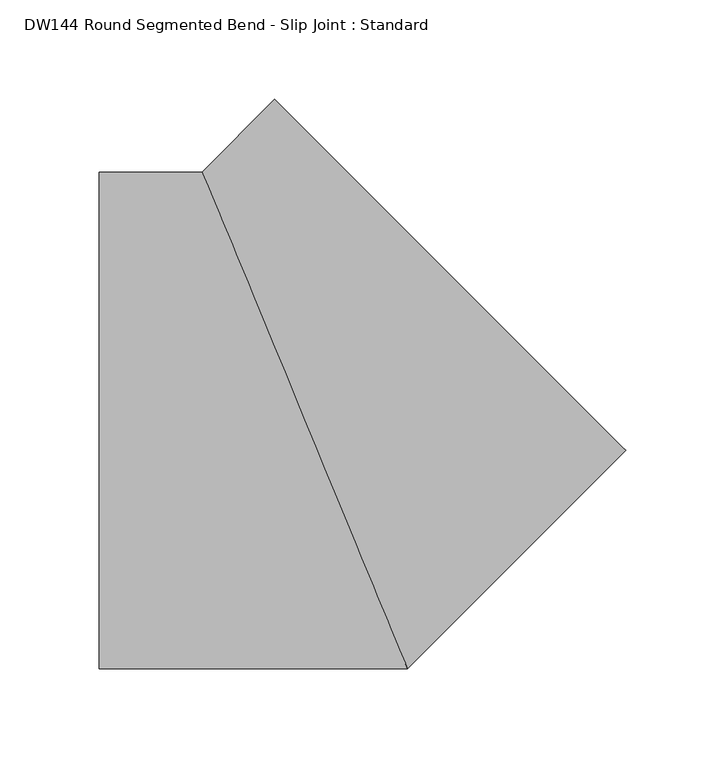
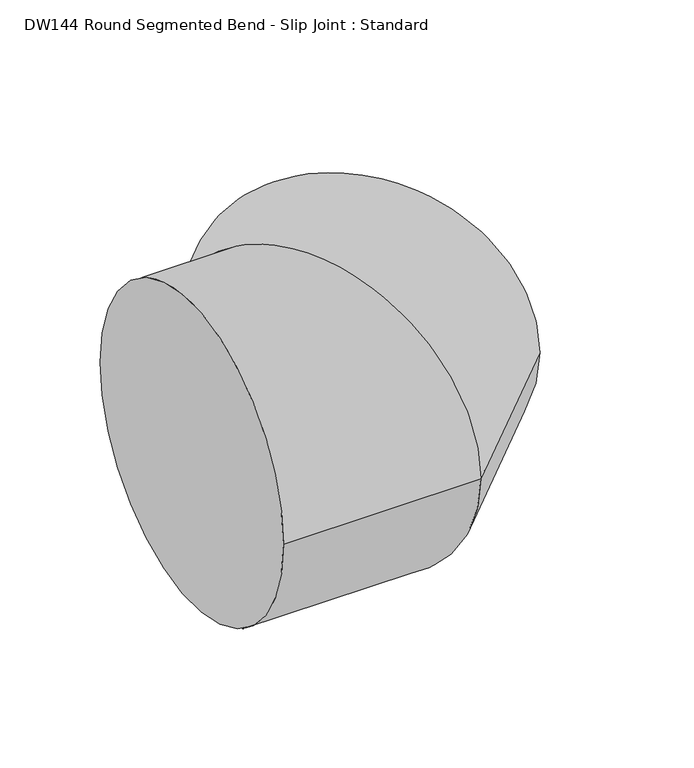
"""IFC4 building model written with IfcOpenShell, lengths in millimetres: duct fitting geometry, DW144 Round Segmented Bend - Slip Joint : Standard."""

import ifcopenshell
import ifcopenshell.guid

model = None  # the IFC model being written
_history = None  # IfcOwnerHistory: only IFC2X3 demands one
_inside = {}  # id of a spatial element -> (the spatial element, [elements in it])
_under = {}  # id of a project, library or spatial element -> (it, [spatial elements below it])
_declared = {}  # id of a project -> (the project, [libraries it declares])
_typed = {}  # id of a type object -> (the type object, [elements of that type])
_made_of = {}  # id of a material, layer set ... -> (it, [elements and type objects made of it])


def new_model(schema):
    """Start an empty IFC model of exactly this schema.

    Asked for "IFC4X3", IfcOpenShell would pick the latest addendum, in which some entities
    have other attributes; the version numbers below select the first issue.
    IFC2X3 requires an IfcOwnerHistory on every rooted entity: one is made here for all.
    """
    global model, _history
    if schema == "IFC4X3":
        model = ifcopenshell.file(schema_version=(4, 3, 0, 0))
    else:
        model = ifcopenshell.file(schema=schema)
    _inside.clear()
    _under.clear()
    _declared.clear()
    _typed.clear()
    _made_of.clear()
    _history = None
    if model.schema == "IFC2X3":
        org = make("IfcOrganization", Name="unknown")
        user = make(
            "IfcPersonAndOrganization",
            ThePerson=make("IfcPerson", FamilyName="unknown"),
            TheOrganization=org,
        )
        app = make(
            "IfcApplication",
            ApplicationDeveloper=org,
            Version="unknown",
            ApplicationFullName="unknown",
            ApplicationIdentifier="unknown",
        )
        _history = make(
            "IfcOwnerHistory",
            OwningUser=user,
            OwningApplication=app,
            ChangeAction="ADDED",
            CreationDate=0,
        )
    return model


def make(cls, **values):
    """One entity of the class cls with the attributes given. An attribute that is None is left unset."""
    return model.create_entity(
        cls, **{name: value for name, value in values.items() if value is not None}
    )


def rooted(cls, **values):
    """An entity with a GlobalId (a new one), such as an element, a storey or a relation."""
    return make(cls, GlobalId=ifcopenshell.guid.new(), OwnerHistory=_history, **values)


def si_unit(unit_type, name, prefix=None):
    """IfcSIUnit, for example si_unit("LENGTHUNIT", "METRE", prefix="MILLI")."""
    return make("IfcSIUnit", UnitType=unit_type, Prefix=prefix, Name=name)


def assignment(units):
    """IfcUnitAssignment: the units of a project."""
    return None if units is None else make("IfcUnitAssignment", Units=units)


def point(xyz):
    """IfcCartesianPoint."""
    return None if xyz is None else make("IfcCartesianPoint", Coordinates=xyz)


def direction(xyz):
    """IfcDirection."""
    return None if xyz is None else make("IfcDirection", DirectionRatios=xyz)


def frame(location, z_axis=None, x_axis=None):
    """IfcAxis2Placement3D, a coordinate frame: its origin and axes. An axis left out is left unset."""
    return make(
        "IfcAxis2Placement3D",
        Location=point(location),
        Axis=direction(z_axis),
        RefDirection=direction(x_axis),
    )


def origin():
    """The frame at (0, 0, 0) with its axes left unset."""
    return frame((0.0, 0.0, 0.0))


def place(relative_to, where):
    """IfcLocalPlacement: puts the frame where relative to a parent placement (None: the world)."""
    return make(
        "IfcLocalPlacement", PlacementRelTo=relative_to, RelativePlacement=where
    )


def context(
    kind, dimensions, precision=None, world=None, true_north=None, identifier=None
):
    """IfcGeometricRepresentationContext, for example the 3D "Model" context."""
    return make(
        "IfcGeometricRepresentationContext",
        ContextIdentifier=identifier,
        ContextType=kind,
        CoordinateSpaceDimension=dimensions,
        Precision=precision,
        WorldCoordinateSystem=world,
        TrueNorth=true_north,
    )


def project(units=None, contexts=None):
    """IfcProject with its units and contexts."""
    return rooted(
        "IfcProject",
        Name="project",
        RepresentationContexts=contexts,
        UnitsInContext=assignment(units),
    )


def spatial(cls, under=None, at=None, **own):
    """A site, building, storey or space (cls), placed at a placement, below another one or the project."""
    s = rooted(cls, ObjectPlacement=at, **own)
    if under is not None:
        _under.setdefault(under.id(), (under, []))[1].append(s)
    return s


def circle_curve(where, radius):
    """IfcCircle in the frame where."""
    return make("IfcCircle", Position=where, Radius=radius)


def ellipse_curve(where, semi_axis1, semi_axis2):
    """IfcEllipse in the frame where."""
    return make(
        "IfcEllipse", Position=where, SemiAxis1=semi_axis1, SemiAxis2=semi_axis2
    )


def shape(context_of_items, identifier, shape_type, items):
    """IfcShapeRepresentation: the items that make up one representation, for example the "Body"."""
    return make(
        "IfcShapeRepresentation",
        ContextOfItems=context_of_items,
        RepresentationIdentifier=identifier,
        RepresentationType=shape_type,
        Items=items,
    )


def source(mapping_origin, context_of_items, identifier, shape_type, items):
    """IfcRepresentationMap: a shape defined once, which mapped items show again and again."""
    return make(
        "IfcRepresentationMap",
        MappingOrigin=mapping_origin,
        MappedRepresentation=shape(context_of_items, identifier, shape_type, items),
    )


def transform(
    local_origin,
    x_axis=None,
    y_axis=None,
    z_axis=None,
    scale=None,
    scale2=None,
    scale3=None,
    uniform=True,
):
    """IfcCartesianTransformationOperator3D, or its non-uniform kind. x_axis, y_axis, z_axis: its Axis1, 2, 3."""
    if uniform:
        return make(
            "IfcCartesianTransformationOperator3D",
            Axis1=direction(x_axis),
            Axis2=direction(y_axis),
            LocalOrigin=point(local_origin),
            Scale=scale,
            Axis3=direction(z_axis),
        )
    return make(
        "IfcCartesianTransformationOperator3DnonUniform",
        Axis1=direction(x_axis),
        Axis2=direction(y_axis),
        LocalOrigin=point(local_origin),
        Scale=scale,
        Axis3=direction(z_axis),
        Scale2=scale2,
        Scale3=scale3,
    )


def mapped(mapping_source, mapping_target):
    """IfcMappedItem: shows the shape of a source again, moved by a transform."""
    return make(
        "IfcMappedItem", MappingSource=mapping_source, MappingTarget=mapping_target
    )


def made_of(thing, what):
    """Note that an element or type object is made of a material, layer set ...; save() writes the relation."""
    if what is not None:
        _made_of.setdefault(what.id(), (what, []))[1].append(thing)
    return thing


def element(
    cls,
    number,
    at=None,
    inside=None,
    cuts=None,
    type_object=None,
    material=None,
    context=None,
    identifier="Body",
    shape_type=None,
    held_by="IfcProductDefinitionShape",
    body=None,
    shapes=None,
    **own,
):
    """One element of the class cls, such as IfcWall. Its Tag is "e" and its number.

    at: its placement. inside: the storey or other place that contains it. cuts: it is an
    opening in that element (IfcRelVoidsElement). A single representation is given by context,
    identifier, shape_type and body (its items); several are given by shapes. held_by: the class
    of the entity that holds the representations. save() writes the other relations.
    """
    e = rooted(cls, Tag="e%d" % number, ObjectPlacement=at, **own)
    if body is not None:
        shapes = [shape(context, identifier, shape_type, body)]
    if shapes is not None:
        e.Representation = make(held_by, Representations=shapes)
    if inside is not None:
        _inside.setdefault(inside.id(), (inside, []))[1].append(e)
    if cuts is not None:
        rooted(
            "IfcRelVoidsElement", RelatingBuildingElement=cuts, RelatedOpeningElement=e
        )
    if type_object is not None:
        _typed.setdefault(type_object.id(), (type_object, []))[1].append(e)
    return made_of(e, material)


def aggregate(whole, parts):
    """IfcRelAggregates: a whole, such as a stair, and the parts it consists of."""
    return rooted("IfcRelAggregates", RelatingObject=whole, RelatedObjects=parts)


def save(model, path):
    """Write the relations noted so far, then the file.

    IfcRelAggregates (storeys below a building ...), IfcRelContainedInSpatialStructure (elements
    in a storey), IfcRelDefinesByType, IfcRelAssociatesMaterial and IfcRelDeclares: one each for
    every whole, place, type object, material and project.
    """
    for whole, parts in _under.values():
        aggregate(whole, parts)
    for where, things in _inside.values():
        rooted(
            "IfcRelContainedInSpatialStructure",
            RelatedElements=things,
            RelatingStructure=where,
        )
    for kind, things in _typed.values():
        rooted("IfcRelDefinesByType", RelatedObjects=things, RelatingType=kind)
    for what, things in _made_of.values():
        rooted("IfcRelAssociatesMaterial", RelatedObjects=things, RelatingMaterial=what)
    for by, libraries in _declared.values():
        rooted("IfcRelDeclares", RelatingContext=by, RelatedDefinitions=libraries)
    model.write(path)


def plane_surface(at):
    """IfcPlane: the flat surface through the origin of the frame at, square to its z axis."""
    return make("IfcPlane", Position=at)


def cylinder_surface(at, radius):
    """IfcCylindricalSurface: all points at the distance radius from the z axis of the frame at."""
    return make("IfcCylindricalSurface", Position=at, Radius=radius)


def advanced_brep(points, edges, surfaces, faces):
    """IfcAdvancedBrep: a solid bounded by faces that lie on surfaces and meet in shared edges.

    An edge is (start, end): straight between two places in points (the first is 0);
    or (start, end, curve); or (start, end, curve, False) where it runs against its curve.
    A face is (place in surfaces, loops), or (place, loops, False) where it looks against
    its surface's normal. A loop lists edges by number (the first is 1), with a minus sign
    where the edge is run from its end to its start. The first loop is the outer one.
    """
    corners = [point(p) for p in points]
    vertices = [make("IfcVertexPoint", VertexGeometry=c) for c in corners]
    made = []
    for start, end, *more in edges:
        made.append(
            make(
                "IfcEdgeCurve",
                EdgeStart=vertices[start],
                EdgeEnd=vertices[end],
                EdgeGeometry=more[0] if more else make("IfcPolyline", Points=[corners[start], corners[end]]),
                SameSense=more[1] if len(more) > 1 else True,
            )
        )
    hull = []
    for where, loops, *sense in faces:
        bounds = []
        for j, loop in enumerate(loops):
            ring = [make("IfcOrientedEdge", EdgeElement=made[abs(k) - 1], Orientation=k > 0) for k in loop]
            bounds.append(
                make(
                    "IfcFaceOuterBound" if j == 0 else "IfcFaceBound",
                    Bound=make("IfcEdgeLoop", EdgeList=ring),
                    Orientation=True,
                )
            )
        hull.append(make("IfcAdvancedFace", Bounds=bounds, FaceSurface=surfaces[where], SameSense=sense[0] if sense else True))
    return make("IfcAdvancedBrep", Outer=make("IfcClosedShell", CfsFaces=hull))


def dw144_round_segmented_bend_slip_joint_standard_636bd9c1(model_context):
    return source(origin(), model_context, "Body", "AdvancedBrep", [
        advanced_brep(
        [(-103.5533906, -125.0, 0.0), (-103.5533906, 125.0, 0.0), (51.7766953, -125.0, 0.0), (-51.7766953, 125.0, 0.0), (161.6116524, -15.1650429, 0.0), (-15.1650429, 161.6116524, 0.0)],
        [
            (0, 1, circle_curve(frame((-103.5533906, 0.0, 0.0), z_axis=(-1.0, 0.0, 0.0), x_axis=(0.0, 1.0, 0.0)), 125.0)),
            (1, 0, circle_curve(frame((-103.5533906, 0.0, 0.0), z_axis=(-1.0, 0.0, 0.0), x_axis=(0.0, 1.0, 0.0)), 125.0)),
            (0, 2),
            (2, 3, ellipse_curve(frame((0.0, 0.0, 0.0), z_axis=(-0.9238795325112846, -0.3826834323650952, 0.0), x_axis=(-0.38268343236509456, 0.9238795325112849, 0.0)), 135.299025, 125.0)),
            (3, 1),
            (3, 2, ellipse_curve(frame((0.0, 0.0, 0.0), z_axis=(-0.9238795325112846, -0.3826834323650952, 0.0), x_axis=(-0.38268343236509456, 0.9238795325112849, 0.0)), 135.299025, 125.0)),
            (2, 4),
            (4, 5, circle_curve(frame((73.2233047, 73.2233047, 0.0), z_axis=(-0.7071067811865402, -0.7071067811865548, 0.0), x_axis=(-0.7071067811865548, 0.7071067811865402, 0.0)), 125.0)),
            (5, 3),
            (5, 4, circle_curve(frame((73.2233047, 73.2233047, 0.0), z_axis=(-0.7071067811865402, -0.7071067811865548, 0.0), x_axis=(-0.7071067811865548, 0.7071067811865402, 0.0)), 125.0)),
        ],
        [
            plane_surface(frame((-103.5533906, 0.0, 0.0), z_axis=(-1.0, 0.0, 0.0), x_axis=(0.0, 0.0, 1.0))),
            cylinder_surface(frame((-103.5533906, 0.0, 0.0), z_axis=(-1.0, 0.0, 0.0), x_axis=(0.0, 1.0, 0.0)), 125.0),
            cylinder_surface(frame((0.0, 0.0, 0.0), z_axis=(-0.7071067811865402, -0.7071067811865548, 0.0), x_axis=(-0.7071067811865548, 0.7071067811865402, 0.0)), 125.0),
            plane_surface(frame((73.2233047, 73.2233047, 0.0), z_axis=(0.7071067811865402, 0.7071067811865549, 0.0), x_axis=(0.0, 0.0, 1.0))),
        ],
        [
            (0, [[1, 2]]),
            (1, [[-1, 3, 4, 5]]),
            (1, [[-2, -5, 6, -3]]),
            (2, [[-4, 7, 8, 9]]),
            (2, [[-6, -9, 10, -7]]),
            (3, [[-10, -8]]),
        ],
    ),
    ])


if __name__ == "__main__":
    model = new_model("IFC4")
    model_context = context("Model", 3, world=origin())
    ifc_project = project(units=[si_unit("LENGTHUNIT", "METRE", prefix="MILLI")], contexts=[model_context])
    site = spatial("IfcSite", under=ifc_project)
    building = spatial("IfcBuilding", under=site)
    placement = place(None, origin())
    dw144_round_segmented_bend_slip_joint_standard_shape = dw144_round_segmented_bend_slip_joint_standard_636bd9c1(model_context)
    element("IfcDuctFitting", 1, ObjectType="DW144 Round Segmented Bend - Slip Joint : Standard", at=placement, inside=building, context=model_context, shape_type="MappedRepresentation", body=[
        mapped(dw144_round_segmented_bend_slip_joint_standard_shape, transform((0.0, 0.0, 0.0), x_axis=(1.0, 0.0, 0.0), y_axis=(0.0, 1.0, 0.0), z_axis=(0.0, 0.0, 1.0))),
    ])
    save(model, "model.ifc")
